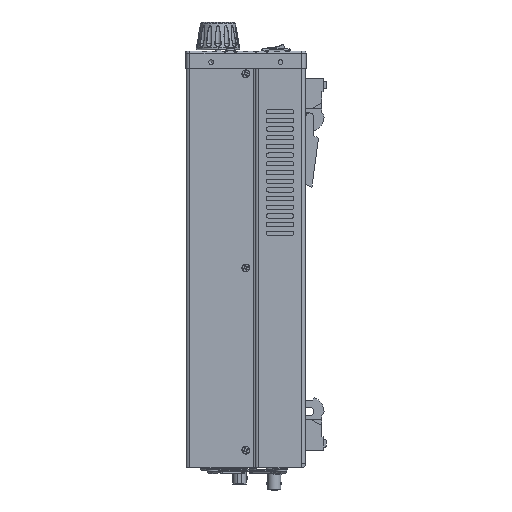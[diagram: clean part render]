
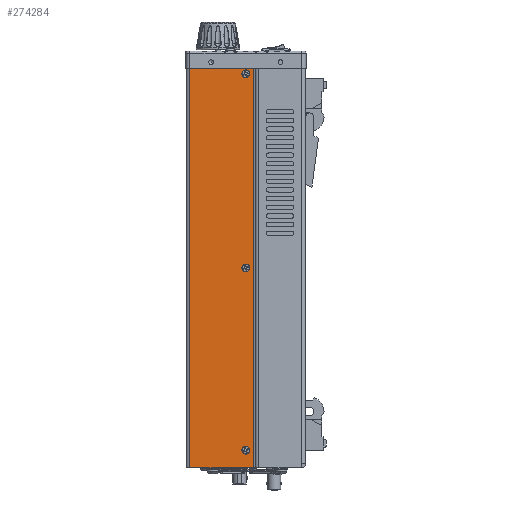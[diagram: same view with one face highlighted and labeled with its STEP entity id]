
A CAD part, left-side view. The second image highlights one B-rep face of the part: STEP entity #274284.
In plain terms, the highlighted planar face has unit normal (-1, 0, 0).
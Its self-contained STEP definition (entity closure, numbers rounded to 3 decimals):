
#2414 = DIRECTION ( 'NONE',  ( 0., 0., 1. ) ) ;
#7377 = CARTESIAN_POINT ( 'NONE',  ( -107.696, 40.876, -304.8 ) ) ;
#15231 = AXIS2_PLACEMENT_3D ( 'NONE', #279313, #140926, #2414 ) ;
#16571 = CARTESIAN_POINT ( 'NONE',  ( -107.696, 40.876, -12.7 ) ) ;
#18208 = DIRECTION ( 'NONE',  ( 0., 0., 1. ) ) ;
#20213 = EDGE_CURVE ( 'NONE', #107959, #209489, #283602, .T. ) ;
#21217 = ORIENTED_EDGE ( 'NONE', *, *, #217441, .F. ) ;
#30817 = DIRECTION ( 'NONE',  ( 1., 0., 0. ) ) ;
#45011 = VERTEX_POINT ( 'NONE', #284543 ) ;
#45710 = VERTEX_POINT ( 'NONE', #220195 ) ;
#47406 = ORIENTED_EDGE ( 'NONE', *, *, #288576, .F. ) ;
#50935 = DIRECTION ( 'NONE',  ( 0., 1., 0. ) ) ;
#51947 = DIRECTION ( 'NONE',  ( -1., 0., 0. ) ) ;
#56941 = EDGE_CURVE ( 'NONE', #45011, #220705, #161317, .T. ) ;
#61561 = CARTESIAN_POINT ( 'NONE',  ( -107.696, 0., -12.7 ) ) ;
#63508 = AXIS2_PLACEMENT_3D ( 'NONE', #169259, #30817, #192457 ) ;
#71979 = ORIENTED_EDGE ( 'NONE', *, *, #171364, .F. ) ;
#81954 = CARTESIAN_POINT ( 'NONE',  ( -107.696, 0., -13.811 ) ) ;
#90699 = CARTESIAN_POINT ( 'NONE',  ( -107.696, 40.876, -158.75 ) ) ;
#103430 = ORIENTED_EDGE ( 'NONE', *, *, #290216, .F. ) ;
#107959 = VERTEX_POINT ( 'NONE', #16571 ) ;
#112634 = FACE_BOUND ( 'NONE', #170879, .T. ) ;
#119139 = VECTOR ( 'NONE', #199980, 1000. ) ;
#126379 = LINE ( 'NONE', #61561, #119139 ) ;
#130114 = LINE ( 'NONE', #189310, #184345 ) ;
#140926 = DIRECTION ( 'NONE',  ( -1., 0., 0. ) ) ;
#142719 = CARTESIAN_POINT ( 'NONE',  ( -107.696, 0., -155.892 ) ) ;
#156637 = DIRECTION ( 'NONE',  ( -1., 0., 0. ) ) ;
#156786 = CIRCLE ( 'NONE', #273477, 2.857 ) ;
#160329 = DIRECTION ( 'NONE',  ( 0., 0., -1. ) ) ;
#161317 = LINE ( 'NONE', #224978, #269827 ) ;
#162386 = CARTESIAN_POINT ( 'NONE',  ( -107.696, -5.397, -12.7 ) ) ;
#169259 = CARTESIAN_POINT ( 'NONE',  ( -107.696, -5.397, -12.7 ) ) ;
#170879 = EDGE_LOOP ( 'NONE', ( #103430 ) ) ;
#171364 = EDGE_CURVE ( 'NONE', #205079, #205079, #270664, .T. ) ;
#174108 = FACE_OUTER_BOUND ( 'NONE', #223513, .T. ) ;
#184345 = VECTOR ( 'NONE', #50935, 1000. ) ;
#187426 = ORIENTED_EDGE ( 'NONE', *, *, #20213, .T. ) ;
#189112 = ORIENTED_EDGE ( 'NONE', *, *, #56941, .T. ) ;
#189310 = CARTESIAN_POINT ( 'NONE',  ( -107.696, 17.739, -304.8 ) ) ;
#190344 = CARTESIAN_POINT ( 'NONE',  ( -107.696, 0., -16.669 ) ) ;
#192457 = DIRECTION ( 'NONE',  ( 0., 0., -1. ) ) ;
#199980 = DIRECTION ( 'NONE',  ( 0., 1., 0. ) ) ;
#205079 = VERTEX_POINT ( 'NONE', #142719 ) ;
#209489 = VERTEX_POINT ( 'NONE', #7377 ) ;
#213496 = DIRECTION ( 'NONE',  ( 0., 0., 1. ) ) ;
#217441 = EDGE_CURVE ( 'NONE', #45011, #209489, #130114, .T. ) ;
#220195 = CARTESIAN_POINT ( 'NONE',  ( -107.696, 0., -289.242 ) ) ;
#220705 = VERTEX_POINT ( 'NONE', #162386 ) ;
#220860 = EDGE_LOOP ( 'NONE', ( #47406 ) ) ;
#223513 = EDGE_LOOP ( 'NONE', ( #236973, #187426, #21217, #189112 ) ) ;
#224978 = CARTESIAN_POINT ( 'NONE',  ( -107.696, -5.397, -158.75 ) ) ;
#232341 = AXIS2_PLACEMENT_3D ( 'NONE', #295176, #156637, #18208 ) ;
#236973 = ORIENTED_EDGE ( 'NONE', *, *, #287654, .T. ) ;
#242672 = EDGE_LOOP ( 'NONE', ( #71979 ) ) ;
#242728 = FACE_BOUND ( 'NONE', #242672, .T. ) ;
#248332 = DIRECTION ( 'NONE',  ( 0., 0., 1. ) ) ;
#254257 = PLANE ( 'NONE',  #63508 ) ;
#269827 = VECTOR ( 'NONE', #248332, 1000. ) ;
#270664 = CIRCLE ( 'NONE', #232341, 2.857 ) ;
#273477 = AXIS2_PLACEMENT_3D ( 'NONE', #190344, #51947, #213496 ) ;
#274284 = ADVANCED_FACE ( 'NONE', ( #112634, #297085, #242728, #174108 ), #254257, .F. ) ;
#279313 = CARTESIAN_POINT ( 'NONE',  ( -107.696, 0., -292.1 ) ) ;
#280929 = CIRCLE ( 'NONE', #15231, 2.857 ) ;
#283602 = LINE ( 'NONE', #90699, #287880 ) ;
#284423 = VERTEX_POINT ( 'NONE', #81954 ) ;
#284543 = CARTESIAN_POINT ( 'NONE',  ( -107.696, -5.397, -304.8 ) ) ;
#287654 = EDGE_CURVE ( 'NONE', #220705, #107959, #126379, .T. ) ;
#287880 = VECTOR ( 'NONE', #160329, 1000. ) ;
#288576 = EDGE_CURVE ( 'NONE', #45710, #45710, #280929, .T. ) ;
#290216 = EDGE_CURVE ( 'NONE', #284423, #284423, #156786, .T. ) ;
#295176 = CARTESIAN_POINT ( 'NONE',  ( -107.696, 0., -158.75 ) ) ;
#297085 = FACE_BOUND ( 'NONE', #220860, .T. ) ;
